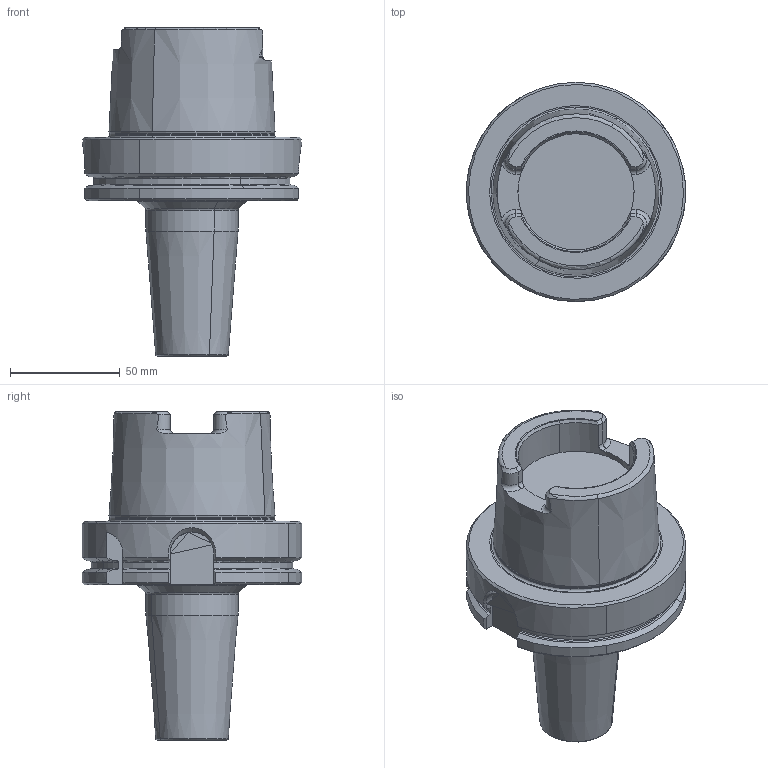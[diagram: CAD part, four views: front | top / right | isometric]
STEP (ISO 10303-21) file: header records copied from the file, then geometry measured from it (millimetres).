
FILE_DESCRIPTION(('CATIA V5 STEP','CAx-IF Rec.Pracs.--- Model Styling and Organization---1.2---2011-12-15'),'2;1');
FILE_NAME('\\nas01\drv1\utils\eitdev\rte\eit\transmagicconvert\db\out\4504219 L.stp','2014-04-06T05:47:29+00:00',('none'),('none'),'CATIA Version 5 Release 21 SP 5 (IN-10)','CATIA V5 STEP AP214','none');
FILE_SCHEMA(('AUTOMOTIVE_DESIGN { 1 0 10303 214 1 1 1 1 }'));
Length unit declared in the file: millimetre
Products named in the file (1): 60974257_0 Holder-Tool HSK A 100 SRKIN 18X100
Bounding box: 100 x 100 x 150 mm (x, y, z)
Volume: 467933.4 mm3; surface area: 46863.4 mm2
Topology: 1 solids, 1 shells, 153 faces, 395 edges, 247 vertices
Faces by surface type: plane 48, cone 36, cylinder 33, torus 32, bspline 2, extrusion 2
Entity records: 4859 total; most frequent: CARTESIAN_POINT 1591, ORIENTED_EDGE 790, DIRECTION 471, EDGE_CURVE 395, AXIS2_PLACEMENT_3D 249, VERTEX_POINT 247, CIRCLE 161, EDGE_LOOP 156
